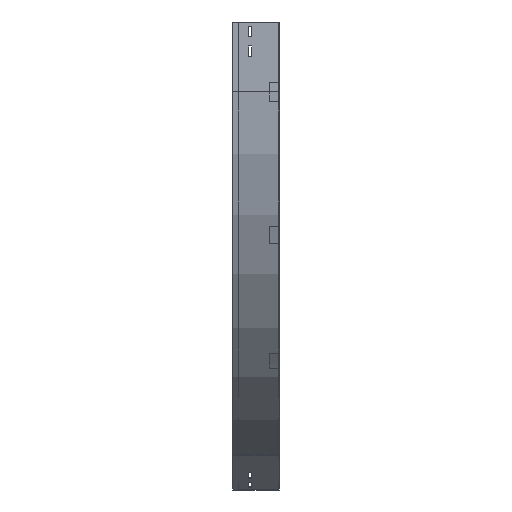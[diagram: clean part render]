
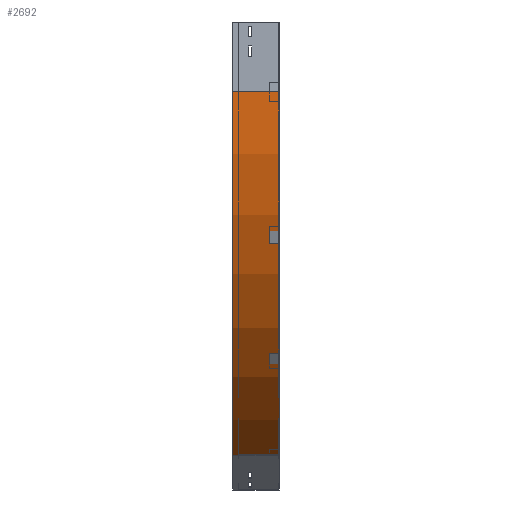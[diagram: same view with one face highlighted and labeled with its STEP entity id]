
A CAD part, left-side view. The second image highlights one B-rep face of the part: STEP entity #2692.
In plain terms, the highlighted cylindrical face has radius 900 mm (diameter 1800 mm), a partial arc.
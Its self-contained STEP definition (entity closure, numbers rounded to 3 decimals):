
#32 = CARTESIAN_POINT ( 'NONE',  ( 0., 0., -150. ) ) ;
#34 = CARTESIAN_POINT ( 'NONE',  ( 900., 0., -150. ) ) ;
#91 = ORIENTED_EDGE ( 'NONE', *, *, #980, .T. ) ;
#119 = CIRCLE ( 'NONE', #1743, 900. ) ;
#185 = CIRCLE ( 'NONE', #3609, 900. ) ;
#309 = CARTESIAN_POINT ( 'NONE',  ( 450., 100., -929.423 ) ) ;
#400 = DIRECTION ( 'NONE',  ( -1., 0., 0. ) ) ;
#681 = DIRECTION ( 'NONE',  ( 0., -1., 0. ) ) ;
#732 = ORIENTED_EDGE ( 'NONE', *, *, #1501, .F. ) ;
#945 = CARTESIAN_POINT ( 'NONE',  ( 900., 0., -150. ) ) ;
#977 = CARTESIAN_POINT ( 'NONE',  ( 0., 0., -150. ) ) ;
#980 = EDGE_CURVE ( 'NONE', #1409, #1885, #185, .T. ) ;
#986 = DIRECTION ( 'NONE',  ( -1., 0., 0. ) ) ;
#1070 = ORIENTED_EDGE ( 'NONE', *, *, #1216, .T. ) ;
#1216 = EDGE_CURVE ( 'NONE', #1885, #1534, #2542, .T. ) ;
#1293 = CARTESIAN_POINT ( 'NONE',  ( 900., 100., -150. ) ) ;
#1409 = VERTEX_POINT ( 'NONE', #1584 ) ;
#1501 = EDGE_CURVE ( 'NONE', #1409, #3251, #1542, .T. ) ;
#1515 = ORIENTED_EDGE ( 'NONE', *, *, #2296, .F. ) ;
#1534 = VERTEX_POINT ( 'NONE', #1562 ) ;
#1542 = LINE ( 'NONE', #977, #2433 ) ;
#1562 = CARTESIAN_POINT ( 'NONE',  ( 450., 0., -929.423 ) ) ;
#1584 = CARTESIAN_POINT ( 'NONE',  ( 0., 100., -150. ) ) ;
#1722 = EDGE_LOOP ( 'NONE', ( #1515, #732, #91, #1070 ) ) ;
#1743 = AXIS2_PLACEMENT_3D ( 'NONE', #945, #3652, #986 ) ;
#1875 = DIRECTION ( 'NONE',  ( 0., -1., 0. ) ) ;
#1885 = VERTEX_POINT ( 'NONE', #309 ) ;
#2148 = DIRECTION ( 'NONE',  ( 0., 0., -1. ) ) ;
#2296 = EDGE_CURVE ( 'NONE', #3251, #1534, #119, .T. ) ;
#2377 = VECTOR ( 'NONE', #3801, 1000. ) ;
#2433 = VECTOR ( 'NONE', #681, 1000. ) ;
#2542 = LINE ( 'NONE', #3533, #2377 ) ;
#2692 = ADVANCED_FACE ( 'NONE', ( #2715 ), #3033, .T. ) ;
#2715 = FACE_OUTER_BOUND ( 'NONE', #1722, .T. ) ;
#2950 = AXIS2_PLACEMENT_3D ( 'NONE', #34, #3371, #2148 ) ;
#3033 = CYLINDRICAL_SURFACE ( 'NONE', #2950, 900. ) ;
#3251 = VERTEX_POINT ( 'NONE', #32 ) ;
#3371 = DIRECTION ( 'NONE',  ( 0., -1., 0. ) ) ;
#3533 = CARTESIAN_POINT ( 'NONE',  ( 450., 0., -929.423 ) ) ;
#3609 = AXIS2_PLACEMENT_3D ( 'NONE', #1293, #1875, #400 ) ;
#3652 = DIRECTION ( 'NONE',  ( 0., -1., 0. ) ) ;
#3801 = DIRECTION ( 'NONE',  ( 0., -1., 0. ) ) ;
